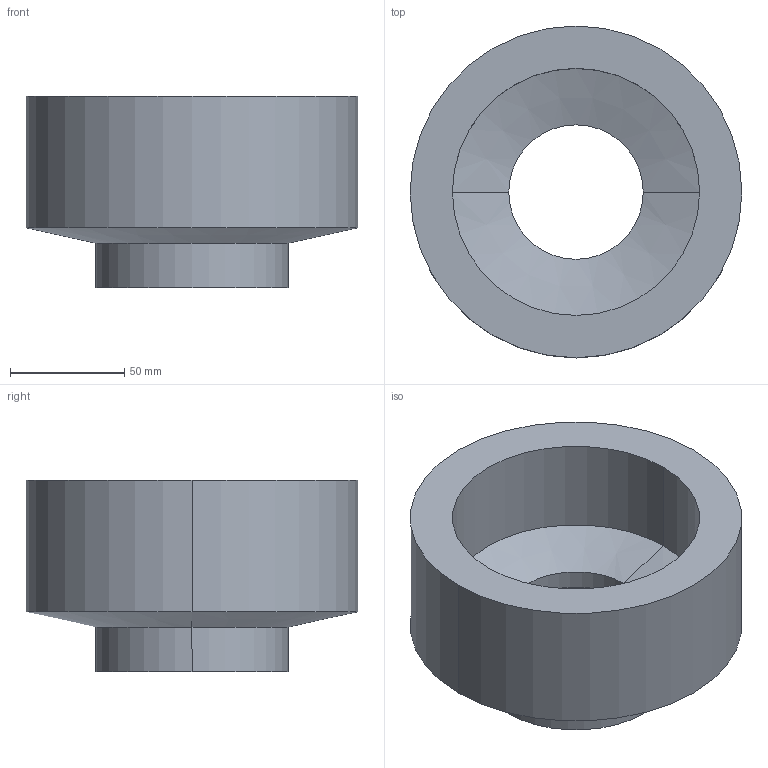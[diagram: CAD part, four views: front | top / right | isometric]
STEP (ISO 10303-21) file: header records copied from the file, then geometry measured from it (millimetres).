
FILE_DESCRIPTION (( 'STEP AP203' ), '1' );
FILE_NAME ('PMR25 FADO.STEP', '2022-08-23T10:58:10', ( '' ), ( '' ), 'SwSTEP 2.0', 'SolidWorks 2021', '' );
FILE_SCHEMA (( 'CONFIG_CONTROL_DESIGN' ));
Length unit declared in the file: millimetre
Products named in the file (1): PMR25 FADO
Bounding box: 145 x 145 x 83.9 mm (x, y, z)
Volume: 601798.4 mm3; surface area: 80378.2 mm2
Topology: 1 solids, 1 shells, 17 faces, 34 edges, 20 vertices
Faces by surface type: cylinder 10, cone 4, plane 3
Entity records: 525 total; most frequent: DIRECTION 90, CARTESIAN_POINT 72, ORIENTED_EDGE 68, AXIS2_PLACEMENT_3D 38, EDGE_CURVE 34, EDGE_LOOP 20, VERTEX_POINT 20, CIRCLE 20
